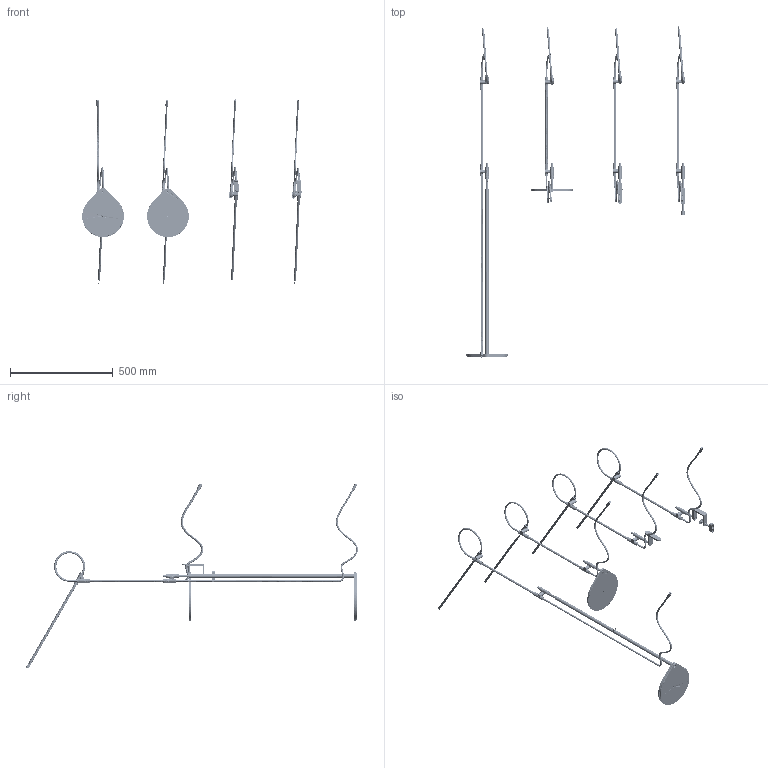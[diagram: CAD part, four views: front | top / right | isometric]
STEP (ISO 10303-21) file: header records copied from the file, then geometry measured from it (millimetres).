
FILE_DESCRIPTION (( 'STEP AP203' ), '1' );
FILE_NAME ('Superlight Family.STEP', '2020-05-11T19:25:22', ( '' ), ( '' ), 'SwSTEP 2.0', 'SolidWorks 2019', '' );
FILE_SCHEMA (( 'CONFIG_CONTROL_DESIGN' ));
Length unit declared in the file: inch
Products named in the file (6): superlight.stp; Superlight + Table Clamp.step; Superlight, Mount, Table Clamp, Full Assy.STEP; wall mount.step.STEP; Superlight + Wall Mount.STEP; Superlight Family
Assembly tree (5 placements, depth 3):
  Superlight Family
    superlight.stp
    Superlight + Table Clamp.step
    Superlight + Wall Mount.STEP
      Superlight, Mount, Table Clamp, Full Assy.STEP
      wall mount.step.STEP
Bounding box: 1069.04 x 1616.02 x 901.13 mm (x, y, z)
Volume: 443786.8 mm3; surface area: 832747.1 mm2
Topology: 92 solids, 129 shells, 12932 faces, 37190 edges, 24452 vertices
Faces by surface type: plane 7375, cylinder 4058, bspline 1126, cone 287, torus 62, sphere 24
Entity records: 566239 total; most frequent: CARTESIAN_POINT 231733, ORIENTED_EDGE 73364, DIRECTION 65467, EDGE_CURVE 36889, LINE 24679, VECTOR 24679, VERTEX_POINT 24449, AXIS2_PLACEMENT_3D 20394
